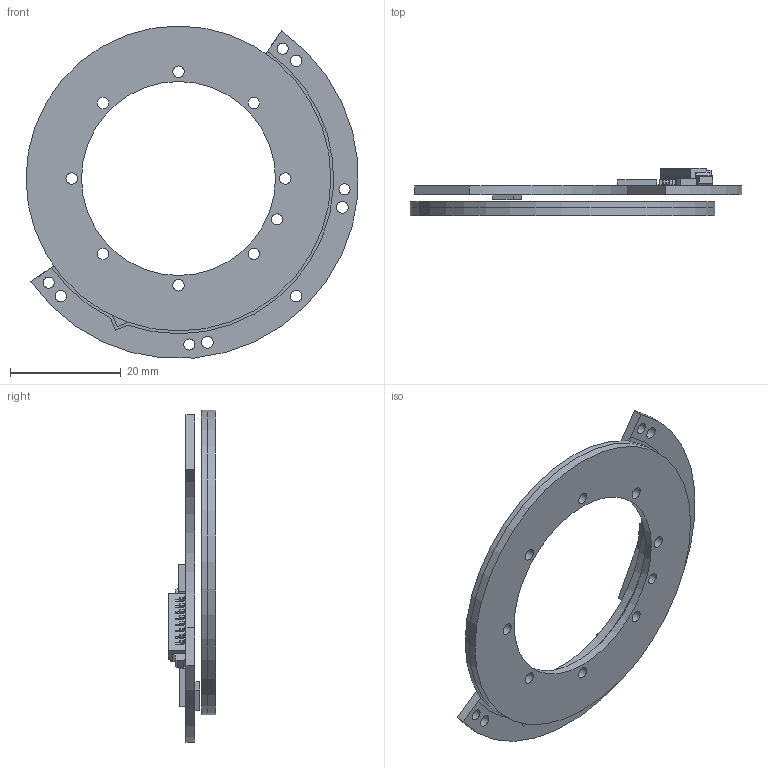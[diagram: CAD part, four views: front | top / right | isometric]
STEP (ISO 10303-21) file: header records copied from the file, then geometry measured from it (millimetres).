
FILE_DESCRIPTION (( 'STEP AP203' ), '1' );
FILE_NAME ('eCoder_35H.STEP', '2022-12-28T09:32:55', ( 'Windows User' ), ( 'P R C' ), 'SwSTEP 2.0', 'SolidWorks 2021', '' );
FILE_SCHEMA (( 'CONFIG_CONTROL_DESIGN' ));
Length unit declared in the file: millimetre
Products named in the file (4): eDisc35-55-2; eDisc35-55鎢攫; PCB35H; eCoder_35H
Assembly tree (3 placements, depth 2):
  eCoder_35H
    PCB35H
    eDisc35-55-2
    eDisc35-55鎢攫
Bounding box: 59.88 x 8.6 x 59.88 mm (x, y, z)
Volume: 4978.9 mm3; surface area: 8844.1 mm2
Topology: 7 solids, 7 shells, 332 faces, 850 edges, 554 vertices
Faces by surface type: plane 299, cylinder 33
Full cylindrical faces by diameter (mm): 2 x5, 2.1 x13, 4 x5, 35 x1, 42 x1, 55 x2
Entity records: 10207 total; most frequent: CARTESIAN_POINT 1715, ORIENTED_EDGE 1646, DIRECTION 1565, EDGE_CURVE 823, LINE 757, VECTOR 757, VERTEX_POINT 554, EDGE_LOOP 421
